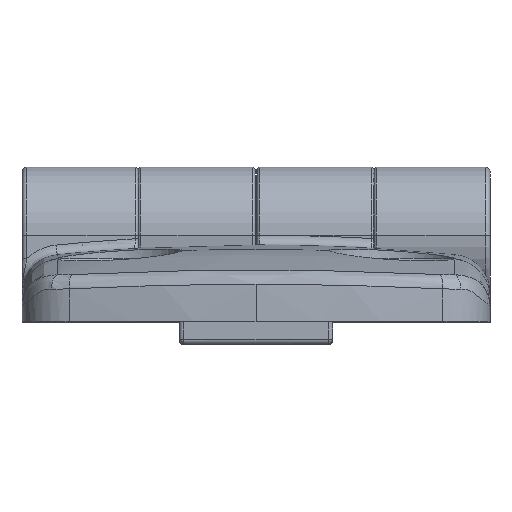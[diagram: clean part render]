
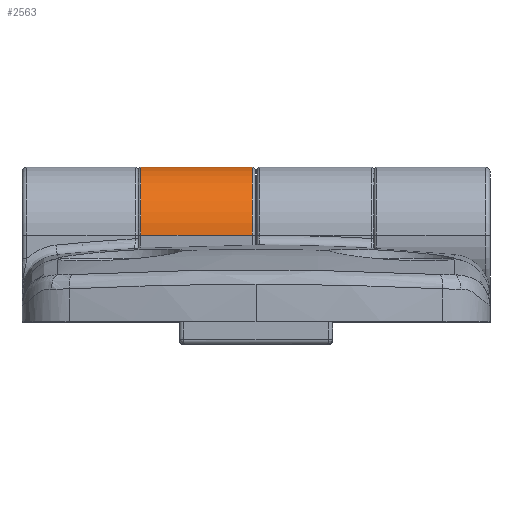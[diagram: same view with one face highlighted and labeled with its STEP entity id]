
A CAD part, top view. The second image highlights one B-rep face of the part: STEP entity #2563.
In plain terms, the highlighted cylindrical face has radius 7 mm (diameter 14 mm), a partial arc.
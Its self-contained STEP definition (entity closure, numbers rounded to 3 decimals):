
#2563=ADVANCED_FACE('NONE',(#5122),#5123,.T.);
#5122=FACE_OUTER_BOUND('',#10595,.T.);
#5123=CYLINDRICAL_SURFACE('',#10596,7.0);
#10595=EDGE_LOOP('',(#17727,#17728,#17729,#17730));
#10596=AXIS2_PLACEMENT_3D('',#17731,#17732,#17733);
#17727=ORIENTED_EDGE('',*,*,#18825,.F.);
#17728=ORIENTED_EDGE('',*,*,#20170,.T.);
#17729=ORIENTED_EDGE('',*,*,#19433,.T.);
#17730=ORIENTED_EDGE('',*,*,#20215,.T.);
#17731=CARTESIAN_POINT('',(24.0,8.9,0.0));
#17732=DIRECTION('',(1.0,0.0,-0.0));
#17733=DIRECTION('',(0.0,0.0,1.0));
#18825=EDGE_CURVE('NONE',#22383,#22385,#22386,.T.);
#19433=EDGE_CURVE('NONE',#23293,#23295,#23297,.T.);
#20170=EDGE_CURVE('NONE',#22383,#23293,#24214,.T.);
#20215=EDGE_CURVE('NONE',#23295,#22385,#24262,.T.);
#22383=VERTEX_POINT('NONE',#27613);
#22385=VERTEX_POINT('NONE',#27615);
#22386=LINE('',#27616,#27617);
#23293=VERTEX_POINT('NONE',#29573);
#23295=VERTEX_POINT('NONE',#29575);
#23297=LINE('',#29578,#29579);
#24214=CIRCLE('',#31626,7.0);
#24262=CIRCLE('',#31700,7.0);
#27613=CARTESIAN_POINT('',(-0.4,8.9,7.0));
#27615=CARTESIAN_POINT('',(-11.8,8.9,7.0));
#27616=CARTESIAN_POINT('',(24.0,8.9,7.0));
#27617=VECTOR('',#34098,1000.0);
#29573=CARTESIAN_POINT('',(-0.4,8.899,-7.0));
#29575=CARTESIAN_POINT('',(-11.8,8.9,-7.0));
#29578=CARTESIAN_POINT('',(24.0,8.9,-7.0));
#29579=VECTOR('',#34887,1000.0);
#31626=AXIS2_PLACEMENT_3D('',#35678,#35679,#35680);
#31700=AXIS2_PLACEMENT_3D('',#35714,#35715,#35716);
#34098=DIRECTION('',(-1.0,-0.0,-0.0));
#34887=DIRECTION('',(-1.0,-0.0,-0.0));
#35678=CARTESIAN_POINT('',(-0.4,8.9,0.0));
#35679=DIRECTION('',(-1.0,0.0,-0.0));
#35680=DIRECTION('',(0.0,0.0,-1.0));
#35714=CARTESIAN_POINT('',(-11.8,8.9,0.0));
#35715=DIRECTION('',(1.0,-0.0,0.0));
#35716=DIRECTION('',(0.0,0.0,-1.0));
